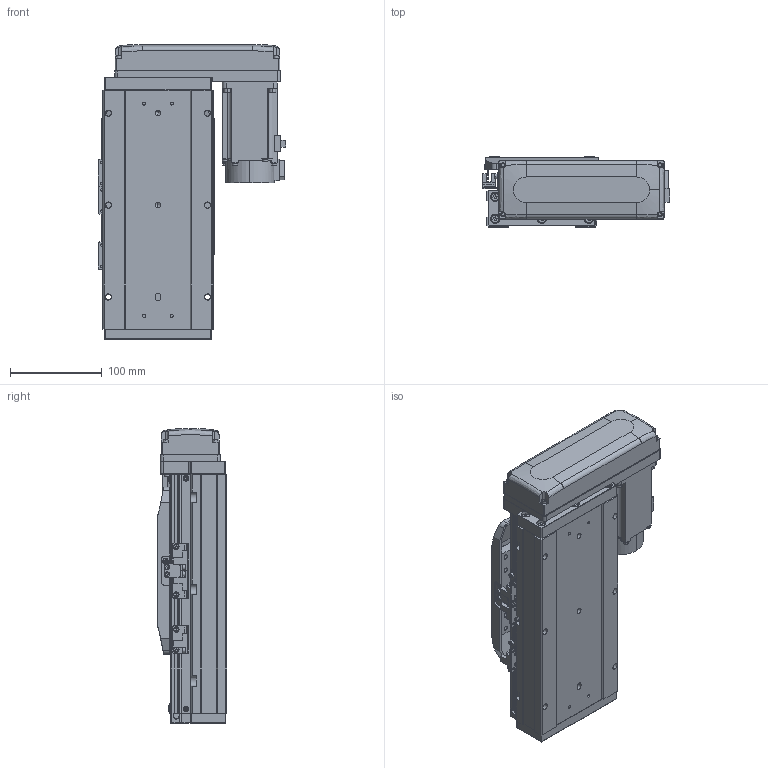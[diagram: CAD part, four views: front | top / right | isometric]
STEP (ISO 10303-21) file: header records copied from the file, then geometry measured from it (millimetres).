
FILE_DESCRIPTION (( 'STEP AP203' ), '1' );
FILE_NAME ('GTH12-50-BL-M40-C4.step', '2025-07-16T03:41:28', ( '' ), ( '' ), 'SwSTEP 2.0', 'SolidWorks 2023', '' );
FILE_SCHEMA (( 'CONFIG_CONTROL_DESIGN' ));
Length unit declared in the file: millimetre
Products named in the file (17): GTH120-004; GBT 70.1-M3×6; GTH120-001_50; GTH120-006; GTH120-013; GTH120-027-1_GTH120-027-2; GBT 70.3-M3×8; GTH80-022; BTH-M3X5X6; CTHA86-033_M40B; 感应器总成右; GTH12-50-BL-M40-C4; GTH120-003; 感应器总成左; hg-kn43j_-s100_; GBT 70.1-M5×16; GTH80-028
Assembly tree (38 placements, depth 2):
  GTH12-50-BL-M40-C4
    GTH120-001_50
    GTH120-003
    GTH120-006
    GTH120-004
    GTH120-013
    GBT 70.1-M3×6  x2
    GBT 70.1-M5×16  x10
    GBT 70.3-M3×8  x4
    GTH80-022
    GTH80-028  x2
    BTH-M3X5X6  x8
    hg-kn43j_-s100_
    CTHA86-033_M40B
    GTH120-027-1_GTH120-027-2
    感应器总成右  x2
    感应器总成左
Bounding box: 203.5 x 76 x 320.5 mm (x, y, z)
Volume: 2943809.8 mm3; surface area: 380930.8 mm2
Topology: 55 solids, 55 shells, 2267 faces, 5284 edges, 3253 vertices
Faces by surface type: plane 1180, cylinder 631, cone 280, torus 162, sphere 8, bspline 6
Entity records: 48482 total; most frequent: CARTESIAN_POINT 8302, DIRECTION 8163, ORIENTED_EDGE 7560, EDGE_CURVE 3780, AXIS2_PLACEMENT_3D 2847, LINE 2469, VECTOR 2469, VERTEX_POINT 2386
